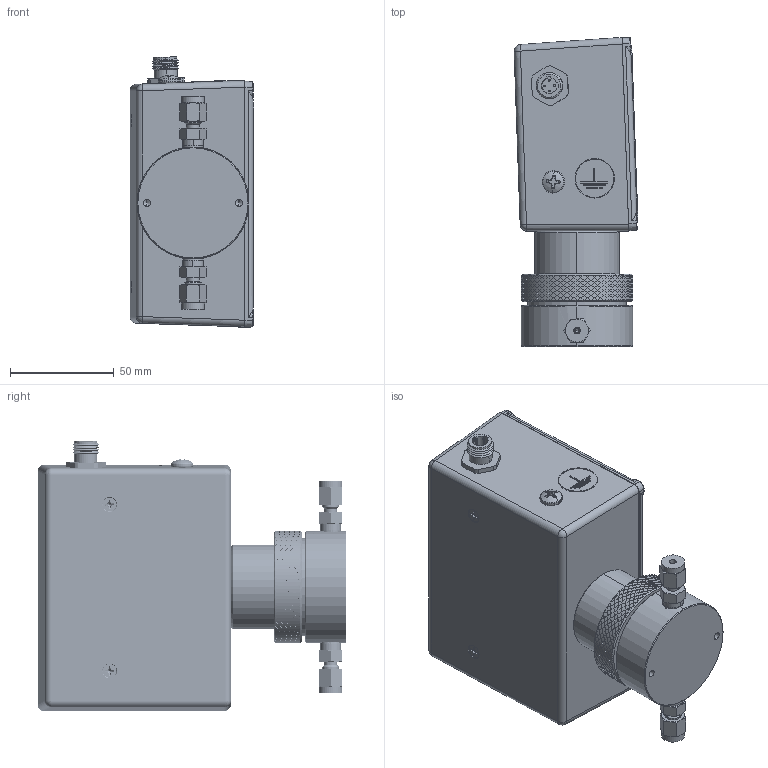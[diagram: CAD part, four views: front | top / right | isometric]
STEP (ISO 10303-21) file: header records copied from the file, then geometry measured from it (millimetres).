
FILE_DESCRIPTION (( 'STEP AP214' ), '1' );
FILE_NAME ('GPR-X500 GB.STEP', '2025-06-05T16:17:12', ( '' ), ( '' ), 'SwSTEP 2.0', 'SolidWorks 2025', '' );
FILE_SCHEMA (( 'AUTOMOTIVE_DESIGN' ));
Length unit declared in the file: inch
Products named in the file (1): GPR-X500 GB
Bounding box: 59.79 x 149.19 x 130.62 mm (x, y, z)
Volume: 197443.1 mm3; surface area: 147147.2 mm2
Topology: 46 solids, 46 shells, 3322 faces, 8803 edges, 5603 vertices
Faces by surface type: bspline 1281, cylinder 978, plane 725, cone 278, torus 42, sphere 18
Entity records: 132576 total; most frequent: CARTESIAN_POINT 60184, ORIENTED_EDGE 17510, DIRECTION 10999, EDGE_CURVE 8755, VERTEX_POINT 5603, VECTOR 3847, LINE 3847, AXIS2_PLACEMENT_3D 3576
